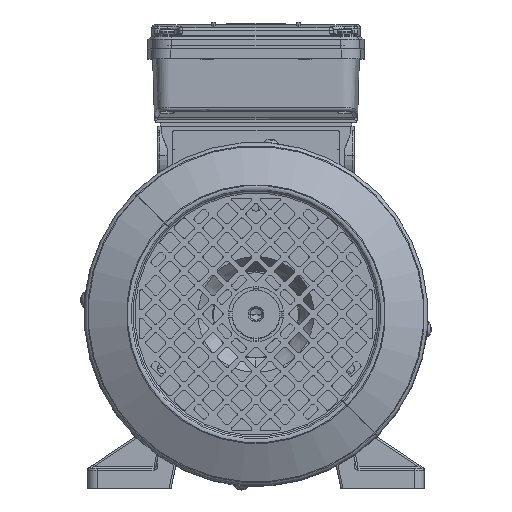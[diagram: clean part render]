
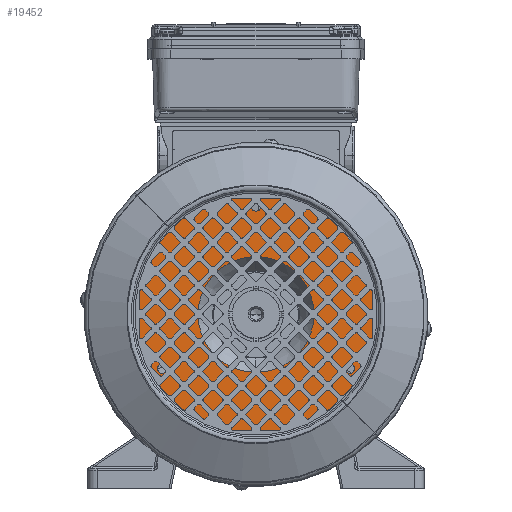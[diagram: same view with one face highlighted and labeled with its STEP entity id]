
A CAD part, top view. The second image highlights one B-rep face of the part: STEP entity #19452.
In plain terms, the highlighted planar face has unit normal (0, 0, 1) as drawn and (0, 1, 0) by its records, which use the part's own axes.
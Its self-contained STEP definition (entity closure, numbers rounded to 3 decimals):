
#1185 = CARTESIAN_POINT ( 'NONE',  ( 48.497, 36., -30.5 ) ) ;
#2764 = DIRECTION ( 'NONE',  ( 0., 0., 1. ) ) ;
#2869 = VERTEX_POINT ( 'NONE', #114553 ) ;
#3818 = CARTESIAN_POINT ( 'NONE',  ( 0., 36., 56. ) ) ;
#5803 = DIRECTION ( 'NONE',  ( 0., 1., 0. ) ) ;
#5805 = DIRECTION ( 'NONE',  ( 0., 0., 1. ) ) ;
#7060 = CIRCLE ( 'NONE', #52366, 2.5 ) ;
#9961 = EDGE_CURVE ( 'NONE', #100668, #15711, #132383, .T. ) ;
#12221 = AXIS2_PLACEMENT_3D ( 'NONE', #140440, #71634, #2764 ) ;
#15420 = DIRECTION ( 'NONE',  ( 0., 0., 1. ) ) ;
#15711 = VERTEX_POINT ( 'NONE', #1185 ) ;
#15791 = EDGE_LOOP ( 'NONE', ( #137486, #39469 ) ) ;
#16257 = FACE_BOUND ( 'NONE', #23588, .T. ) ;
#17286 = AXIS2_PLACEMENT_3D ( 'NONE', #29751, #110188, #41334 ) ;
#17987 = EDGE_LOOP ( 'NONE', ( #96671, #134275 ) ) ;
#18114 = CARTESIAN_POINT ( 'NONE',  ( 0., 36., 30. ) ) ;
#19307 = DIRECTION ( 'NONE',  ( 0., 1., 0. ) ) ;
#19452 = ADVANCED_FACE ( 'NONE', ( #134905, #19803, #50359, #16257, #104317 ), #52347, .F. ) ;
#19803 = FACE_BOUND ( 'NONE', #63937, .T. ) ;
#22943 = CARTESIAN_POINT ( 'NONE',  ( 48.497, 36., -25.5 ) ) ;
#23588 = EDGE_LOOP ( 'NONE', ( #95707, #27310 ) ) ;
#24856 = CIRCLE ( 'NONE', #34370, 2.5 ) ;
#26833 = CIRCLE ( 'NONE', #30284, 2.5 ) ;
#27310 = ORIENTED_EDGE ( 'NONE', *, *, #121796, .F. ) ;
#28779 = CIRCLE ( 'NONE', #63743, 67.5 ) ;
#29718 = CARTESIAN_POINT ( 'NONE',  ( 30., 36., 0. ) ) ;
#29751 = CARTESIAN_POINT ( 'NONE',  ( 0., 36., 0. ) ) ;
#30070 = ORIENTED_EDGE ( 'NONE', *, *, #127452, .F. ) ;
#30284 = AXIS2_PLACEMENT_3D ( 'NONE', #143440, #74638, #5805 ) ;
#31219 = DIRECTION ( 'NONE',  ( 0., 1., 0. ) ) ;
#33897 = AXIS2_PLACEMENT_3D ( 'NONE', #3818, #84277, #15420 ) ;
#34370 = AXIS2_PLACEMENT_3D ( 'NONE', #88199, #19307, #99688 ) ;
#35680 = ORIENTED_EDGE ( 'NONE', *, *, #62158, .F. ) ;
#36502 = CIRCLE ( 'NONE', #147119, 30. ) ;
#39469 = ORIENTED_EDGE ( 'NONE', *, *, #144291, .F. ) ;
#40271 = EDGE_CURVE ( 'NONE', #91245, #98537, #140292, .T. ) ;
#41287 = DIRECTION ( 'NONE',  ( 0., 0., -1. ) ) ;
#41334 = DIRECTION ( 'NONE',  ( 0., 0., 1. ) ) ;
#41541 = DIRECTION ( 'NONE',  ( 0., 1., 0. ) ) ;
#43298 = VERTEX_POINT ( 'NONE', #52941 ) ;
#45043 = VERTEX_POINT ( 'NONE', #113077 ) ;
#45127 = AXIS2_PLACEMENT_3D ( 'NONE', #48922, #129383, #60529 ) ;
#46841 = DIRECTION ( 'NONE',  ( 0., 1., 0. ) ) ;
#48007 = VERTEX_POINT ( 'NONE', #124981 ) ;
#48922 = CARTESIAN_POINT ( 'NONE',  ( 48.497, 36., -28. ) ) ;
#50359 = FACE_BOUND ( 'NONE', #15791, .T. ) ;
#51752 = ORIENTED_EDGE ( 'NONE', *, *, #146288, .F. ) ;
#52347 = PLANE ( 'NONE',  #55623 ) ;
#52366 = AXIS2_PLACEMENT_3D ( 'NONE', #115773, #46841, #127305 ) ;
#52401 = CARTESIAN_POINT ( 'NONE',  ( -48.497, 36., -30.5 ) ) ;
#52941 = CARTESIAN_POINT ( 'NONE',  ( 0., 36., 58.5 ) ) ;
#53232 = CIRCLE ( 'NONE', #17286, 67.5 ) ;
#55623 = AXIS2_PLACEMENT_3D ( 'NONE', #29718, #110143, #41287 ) ;
#60529 = DIRECTION ( 'NONE',  ( 0., 0., 1. ) ) ;
#62158 = EDGE_CURVE ( 'NONE', #79623, #82686, #24856, .T. ) ;
#63743 = AXIS2_PLACEMENT_3D ( 'NONE', #110403, #41541, #122027 ) ;
#63937 = EDGE_LOOP ( 'NONE', ( #110300, #30070 ) ) ;
#71634 = DIRECTION ( 'NONE',  ( 0., 1., 0. ) ) ;
#74286 = EDGE_LOOP ( 'NONE', ( #35680, #51752 ) ) ;
#74636 = CARTESIAN_POINT ( 'NONE',  ( 0., 36., 0. ) ) ;
#74638 = DIRECTION ( 'NONE',  ( 0., 1., 0. ) ) ;
#79623 = VERTEX_POINT ( 'NONE', #143045 ) ;
#82686 = VERTEX_POINT ( 'NONE', #52401 ) ;
#83631 = EDGE_CURVE ( 'NONE', #45043, #48007, #28779, .T. ) ;
#84277 = DIRECTION ( 'NONE',  ( 0., 1., 0. ) ) ;
#86229 = DIRECTION ( 'NONE',  ( 0., 0., 1. ) ) ;
#86658 = CIRCLE ( 'NONE', #33897, 2.5 ) ;
#88199 = CARTESIAN_POINT ( 'NONE',  ( -48.497, 36., -28. ) ) ;
#91245 = VERTEX_POINT ( 'NONE', #18114 ) ;
#95707 = ORIENTED_EDGE ( 'NONE', *, *, #40271, .F. ) ;
#96671 = ORIENTED_EDGE ( 'NONE', *, *, #83631, .T. ) ;
#98537 = VERTEX_POINT ( 'NONE', #140507 ) ;
#99688 = DIRECTION ( 'NONE',  ( 0., 0., 1. ) ) ;
#100078 = CARTESIAN_POINT ( 'NONE',  ( 0., 36., 0. ) ) ;
#100668 = VERTEX_POINT ( 'NONE', #22943 ) ;
#104317 = FACE_OUTER_BOUND ( 'NONE', #17987, .T. ) ;
#110143 = DIRECTION ( 'NONE',  ( 0., -1., 0. ) ) ;
#110188 = DIRECTION ( 'NONE',  ( 0., 1., 0. ) ) ;
#110300 = ORIENTED_EDGE ( 'NONE', *, *, #9961, .F. ) ;
#110403 = CARTESIAN_POINT ( 'NONE',  ( 0., 36., 0. ) ) ;
#111651 = DIRECTION ( 'NONE',  ( 0., 0., 1. ) ) ;
#113077 = CARTESIAN_POINT ( 'NONE',  ( 0., 36., 67.5 ) ) ;
#114553 = CARTESIAN_POINT ( 'NONE',  ( 0., 36., 53.5 ) ) ;
#115773 = CARTESIAN_POINT ( 'NONE',  ( -48.497, 36., -28. ) ) ;
#118920 = CIRCLE ( 'NONE', #45127, 2.5 ) ;
#121796 = EDGE_CURVE ( 'NONE', #98537, #91245, #36502, .T. ) ;
#122027 = DIRECTION ( 'NONE',  ( 0., 0., 1. ) ) ;
#124524 = EDGE_CURVE ( 'NONE', #43298, #2869, #26833, .T. ) ;
#124981 = CARTESIAN_POINT ( 'NONE',  ( 0., 36., -67.5 ) ) ;
#127305 = DIRECTION ( 'NONE',  ( 0., 0., 1. ) ) ;
#127452 = EDGE_CURVE ( 'NONE', #15711, #100668, #118920, .T. ) ;
#129383 = DIRECTION ( 'NONE',  ( 0., 1., 0. ) ) ;
#131142 = EDGE_CURVE ( 'NONE', #48007, #45043, #53232, .T. ) ;
#132383 = CIRCLE ( 'NONE', #12221, 2.5 ) ;
#134275 = ORIENTED_EDGE ( 'NONE', *, *, #131142, .T. ) ;
#134905 = FACE_BOUND ( 'NONE', #74286, .T. ) ;
#137486 = ORIENTED_EDGE ( 'NONE', *, *, #124524, .F. ) ;
#140292 = CIRCLE ( 'NONE', #141425, 30. ) ;
#140440 = CARTESIAN_POINT ( 'NONE',  ( 48.497, 36., -28. ) ) ;
#140507 = CARTESIAN_POINT ( 'NONE',  ( 0., 36., -30. ) ) ;
#141425 = AXIS2_PLACEMENT_3D ( 'NONE', #74636, #5803, #86229 ) ;
#143045 = CARTESIAN_POINT ( 'NONE',  ( -48.497, 36., -25.5 ) ) ;
#143440 = CARTESIAN_POINT ( 'NONE',  ( 0., 36., 56. ) ) ;
#144291 = EDGE_CURVE ( 'NONE', #2869, #43298, #86658, .T. ) ;
#146288 = EDGE_CURVE ( 'NONE', #82686, #79623, #7060, .T. ) ;
#147119 = AXIS2_PLACEMENT_3D ( 'NONE', #100078, #31219, #111651 ) ;
